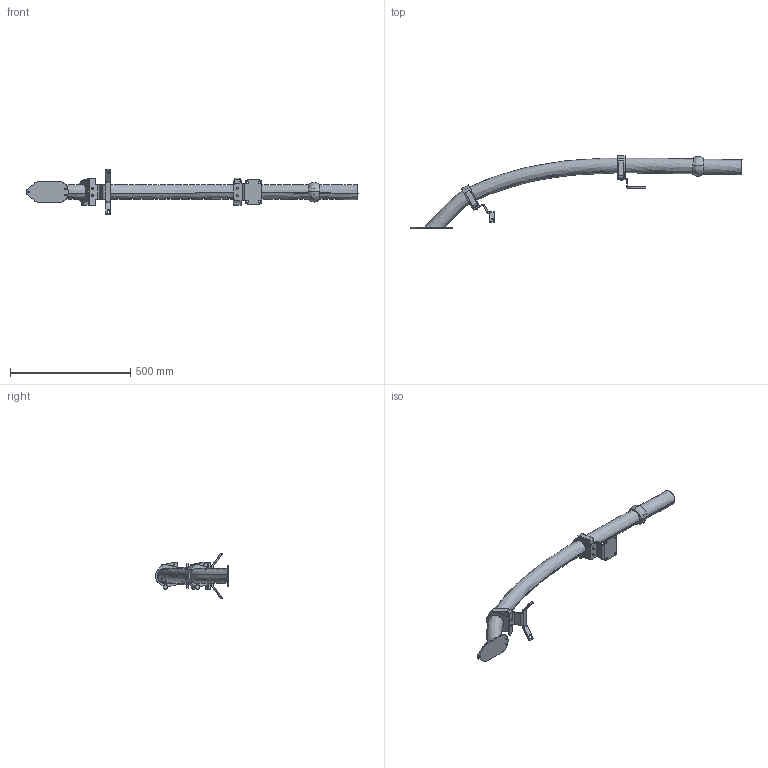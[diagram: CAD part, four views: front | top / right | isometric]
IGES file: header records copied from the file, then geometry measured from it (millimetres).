
Start section: SolidWorks IGES file using analytic representation for surfaces
Global section: file name: B:\DM\Robotics\SEROP_PROJ\Product Development\DevelopmentProjects\HD\3_Design PRMD\4_Struktur SAP o CAD\Lättmodeller\IRB8700-MH3_800-350\IRB8700-MH3_800-350_IRC5_IGES_j\IRB8700-MH3_800-350_IRC5_rev00_LINK4_CABLE.IGS; native system: SolidWorks 2014; preprocessor: SolidWorks 2014; author: sepehak; date: 150604.101953; units: millimetre
Bounding box: 1383 x 303.94 x 190.75 mm (x, y, z)
Surface area: 419335.4 mm2 (no closed solid volume)
Topology: 0 solids, 0 shells, 705 faces, 8840 edges, 8824 vertices
Faces by surface type: bspline 476, revolution 229
